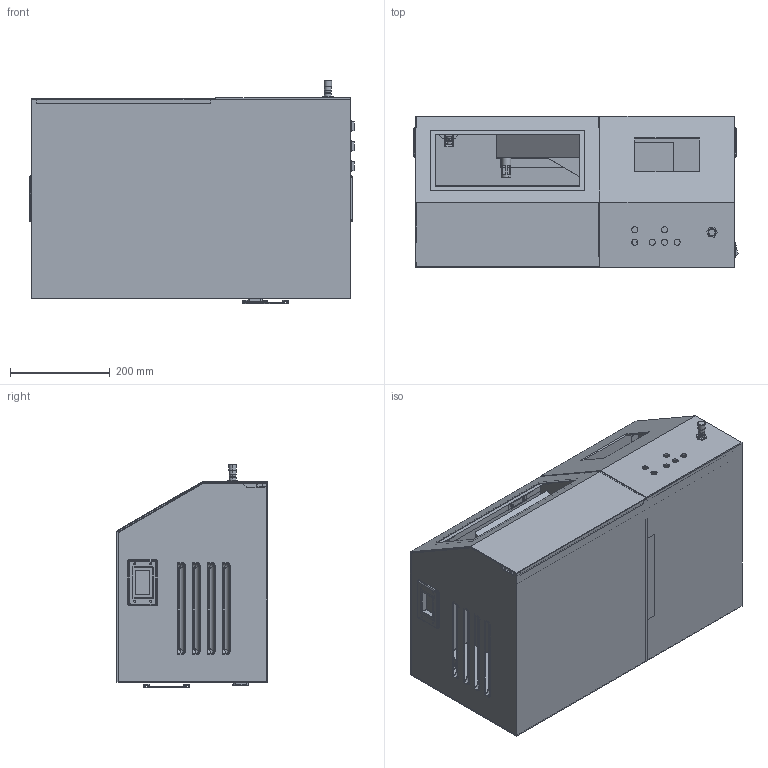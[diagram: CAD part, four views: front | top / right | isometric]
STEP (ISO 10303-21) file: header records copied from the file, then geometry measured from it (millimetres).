
FILE_DESCRIPTION (( 'STEP AP214' ), '1' );
FILE_NAME ('牉婉妗桄怢-俋褲.STEP', '2024-12-09T10:27:03', ( '' ), ( '' ), 'SwSTEP 2.0', 'SolidWorks 2022', '' );
FILE_SCHEMA (( 'AUTOMOTIVE_DESIGN' ));
Length unit declared in the file: millimetre
Products named in the file (38): cellpower-隔板; cellpower-合页1; cellpower-插头; cellpower-电极固定模块; cellpower-connector Part1; cellpower-外壳; cellpower-connector Part3; cellpower-bridge 1 sheet matel 1; cellpower-bridge 4 sheet metal; cellpower-电极; cellpower-风扇架; cellpower-活动盖板-上; cellpower-底板侧板新; 细胞实验台-外壳; cellpower-触控外壳新; cellpower-上盖; cellpower-插头母槽; cellpower-活动盖板-中; cellpower-活动盖板; cellpower-活动盖板-下; cellpower-电源开关; cellpower-流量阀; cellpower-bridge 3 sheet metal; cellpower-Base sheet matel 1; cellpower-connector Part2; cellpower-bridge 2 sheet metal; cellpower-spring holder 1; cellpower-握把; cellpower-spring holder 2; cellpower-电源开关（蓝）; cellpower-合页轴; cellpower-全盖铰链; cellpower-电源开关（黄）; cellpower-合页2; cellpower-装配验证; cellpower-connector Part3-2; cellpower-风扇; cellpower-Base sheet matel 2
Assembly tree (53 placements, depth 3):
  细胞实验台-外壳
    cellpower-外壳
      cellpower-触控外壳新
      cellpower-底板侧板新
      cellpower-隔板
    cellpower-活动盖板
      cellpower-活动盖板-上
      cellpower-活动盖板-下
      cellpower-活动盖板-中
      cellpower-合页1  x4
      cellpower-合页2  x4
      cellpower-合页轴  x4
    cellpower-握把  x2
    cellpower-插头
    cellpower-风扇
    cellpower-风扇架
    cellpower-装配验证
      cellpower-电极固定模块
      cellpower-上盖
      cellpower-电极  x2
    cellpower-插头母槽
    cellpower-电源开关
    cellpower-电源开关（黄）
    cellpower-电源开关（蓝）
    cellpower-流量阀
    cellpower-全盖铰链  x2
      cellpower-Base sheet matel 1
      cellpower-bridge 2 sheet metal
      cellpower-bridge 3 sheet metal
      cellpower-Base sheet matel 2
      cellpower-bridge 1 sheet matel 1
      cellpower-bridge 4 sheet metal
      cellpower-connector Part3
      cellpower-connector Part2
      cellpower-connector Part1
      cellpower-connector Part3-2
      cellpower-spring holder 2
      cellpower-spring holder 1
Bounding box: 651.95 x 303 x 448.5 mm (x, y, z)
Volume: 3694574.2 mm3; surface area: 2771506.2 mm2
Topology: 66 solids, 66 shells, 3674 faces, 9442 edges, 5977 vertices
Faces by surface type: plane 1583, cylinder 1128, bspline 714, torus 161, cone 72, sphere 16
Entity records: 121301 total; most frequent: CARTESIAN_POINT 59821, ORIENTED_EDGE 13162, DIRECTION 10706, EDGE_CURVE 6581, VERTEX_POINT 4215, LINE 3822, VECTOR 3822, AXIS2_PLACEMENT_3D 3442
